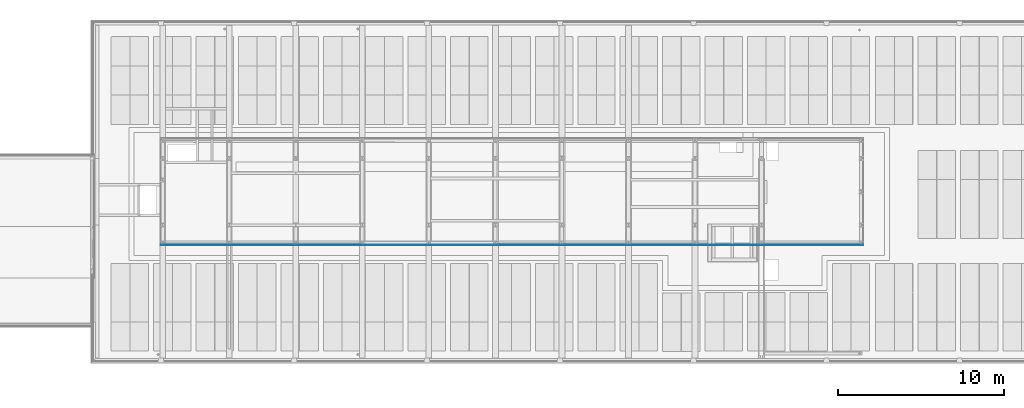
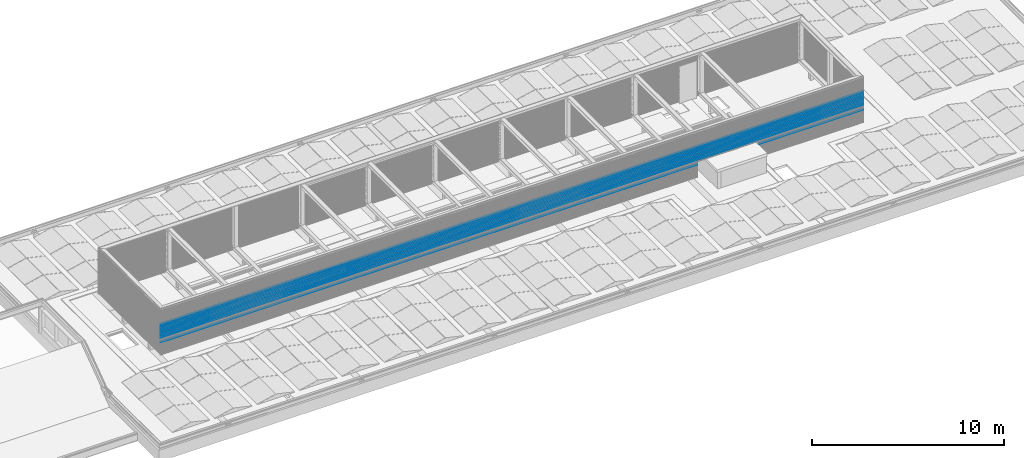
# One storey, part 35 of 63: 13 building element parts, 1 opening, 1 element without a shape of its own.
"""IFC2X3 building model written with IfcOpenShell, lengths in millimetres."""

from ifc_helpers import new_model, entity, si_unit, converted_unit, derived_unit, money_unit, direction, frame, origin_with_axes, place, context, subcontext, project, spatial, faceted_brep, material, type_object, element, aggregate, save


model = new_model("IFC2X3")

# Units and contexts
model_context = context("Model", 3, precision=0.01, world=origin_with_axes(), true_north=direction((0.0, 1.0)))
body_context = subcontext(model_context, "Body", "Model", "MODEL_VIEW")
ifc_project = project(units=[si_unit("LENGTHUNIT", "METRE", prefix="MILLI"), si_unit("AREAUNIT", "SQUARE_METRE"), si_unit("VOLUMEUNIT", "CUBIC_METRE"), converted_unit("PLANEANGLEUNIT", "DEGREE", entity("IfcPlaneAngleMeasure", 0.0174532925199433), si_unit("PLANEANGLEUNIT", "RADIAN"), dimensions=[0, 0, 0, 0, 0, 0, 0]), money_unit("EUR"), converted_unit("TIMEUNIT", "Year", entity("IfcTimeMeasure", 31557600.0), si_unit("TIMEUNIT", "SECOND"), dimensions=[0, 0, 1, 0, 0, 0, 0]), si_unit("MASSUNIT", "GRAM", prefix="KILO"), si_unit("THERMODYNAMICTEMPERATUREUNIT", "DEGREE_CELSIUS"), si_unit("LUMINOUSINTENSITYUNIT", "LUMEN"), si_unit("ENERGYUNIT", "JOULE", prefix="MEGA"), derived_unit("THERMALCONDUCTANCEUNIT", [(si_unit("POWERUNIT", "WATT"), 1), (si_unit("LENGTHUNIT", "METRE"), -1), (si_unit("THERMODYNAMICTEMPERATUREUNIT", "KELVIN"), -1)]), derived_unit("SPECIFICHEATCAPACITYUNIT", [(si_unit("ENERGYUNIT", "JOULE"), 1), (si_unit("MASSUNIT", "GRAM", prefix="KILO"), -1), (si_unit("THERMODYNAMICTEMPERATUREUNIT", "KELVIN"), -1)]), derived_unit("MASSDENSITYUNIT", [(si_unit("MASSUNIT", "GRAM", prefix="KILO"), 1), (si_unit("VOLUMEUNIT", "CUBIC_METRE"), -1)])], contexts=[model_context])

# Site, building, storey
site_placement = place(None, origin_with_axes())
site = spatial("IfcSite", under=ifc_project, at=site_placement, Name="<site naam>", CompositionType="ELEMENT")
building_placement = place(site_placement, origin_with_axes())
building = spatial("IfcBuilding", under=site, at=building_placement, Name="<Naam gebouw>", CompositionType="ELEMENT")
storey_placement = place(building_placement, frame((0.0, 0.0, 12770.0), z_axis=(0.0, 0.0, 1.0), x_axis=(1.0, 0.0, 0.0)))
storey = spatial("IfcBuildingStorey", under=building, at=storey_placement, Name="04 4e verdieping", CompositionType="ELEMENT", Elevation=12770.0)

# Wall, opening, building element parts
wall_type = type_object("IfcWallType", Name="Gevelbeplating golf 18 x 2900", PredefinedType="NOTDEFINED")
wall_placement = place(storey_placement, frame((15871.99992141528, 6781.999921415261, 299.9552842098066), z_axis=(0.0, 0.0, 1.0), x_axis=(1.0, 0.0, 0.0)))
wall = element("IfcWall", 1, at=wall_placement, inside=storey, type_object=wall_type, Name="47_Binnenwand_Gevelbeplating")
opening_placement = place(wall_placement, frame((-15871.99992141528, -6781.999921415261, -13069.95528420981), z_axis=(0.0, 0.0, 1.0), x_axis=(1.0, 0.0, 0.0)))
element("IfcOpeningElement", 2, at=opening_placement, cuts=wall, Name="47_Opening_", context=body_context, shape_type="Brep", body=[
    faceted_brep([(48150.00001112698, 6763.99976424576, 12770.0), (48150.00001112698, 6763.99976424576, 14059.65145375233), (48150.00001112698, 6818.000000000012, 14059.65145375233), (48150.00001112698, 6818.000000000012, 12770.0), (51850.00001112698, 6763.99976424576, 12770.0), (51850.00001112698, 6763.99976424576, 14059.65145375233), (51850.00001112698, 6818.000000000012, 14059.65145375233), (51850.00001112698, 6818.000000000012, 12770.0)], [[[0, 1, 2, 3]], [[0, 4, 5, 1]], [[1, 5, 6, 2]], [[3, 2, 6, 7]], [[4, 0, 3, 7]], [[5, 4, 7, 6]]]),
])
ifc_material = material(Name="gevelafwerking type 3 - Aluminium RAL1036")
building_element_part_1_placement = place(wall_placement, origin_with_axes())
building_element_part_1 = element("IfcBuildingElementPart", 3, at=building_element_part_1_placement, material=ifc_material, Name="gevelafwerking type 3 - Aluminium RAL1036", context=body_context, shape_type="Brep", body=[
    faceted_brep([(42241.45599067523, 15.62923191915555, 1205.3155113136), (14.54416649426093, 15.62923191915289, 1205.3155113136), (14.77512824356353, 15.69996890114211, 1205.634310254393), (16.99992737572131, 17.99996904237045, 1215.999997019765), (42239.00022979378, 17.99996904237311, 1215.999997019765), (42241.22502892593, 15.69996890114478, 1205.634310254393), (8.209504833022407, 9.04155271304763, 1196.575878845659), (8.555206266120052, 9.398091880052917, 1197.048886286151), (42247.44495090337, 9.398091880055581, 1197.048886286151), (42247.79065233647, 9.041552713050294, 1196.575878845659), (14.77512824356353, 14.77516613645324, 1205.634310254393), (8.555206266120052, 8.55522165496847, 1197.048886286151), (16.99992737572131, 16.99996666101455, 1215.999997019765), (42239.00022979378, 16.99996666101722, 1215.999997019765), (42241.22502892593, 14.77516613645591, 1205.634310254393), (42247.44495090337, 8.555221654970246, 1197.048886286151), (2.257327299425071, 3.340093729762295, 1188.43178688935), (2.257327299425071, 2.257327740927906, 1188.43178688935), (42253.74282987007, 2.25732774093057, 1188.43178688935), (42253.74282987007, 3.340093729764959, 1188.43178688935), (2.188197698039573, 3.116447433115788, 1188.112325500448), (42253.81195947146, 3.116447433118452, 1188.112325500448), (-5.474286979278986e-05, 0.999969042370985, 1177.999983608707), (-5.474286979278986e-05, -3.095762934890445e-05, 1177.999983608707), (42256.00021191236, -3.095762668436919e-05, 1177.999983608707), (42256.00021191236, 0.9999690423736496, 1177.999983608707)], [[[0, 1, 2, 3, 4, 5]], [[6, 7, 1, 0, 8, 9]], [[10, 2, 1, 7, 11]], [[12, 3, 2, 10]], [[4, 3, 12, 13]], [[14, 5, 4, 13]], [[15, 8, 0, 5, 14]], [[11, 7, 6, 16, 17]], [[18, 19, 9, 8, 15]], [[20, 16, 6, 9, 19, 21]], [[14, 10, 11, 15]], [[13, 12, 10, 14]], [[17, 16, 20, 22, 23]], [[15, 11, 17, 18]], [[24, 25, 21, 19, 18]], [[25, 22, 20, 21]], [[24, 23, 22, 25]], [[18, 17, 23, 24]]]),
])
building_element_part_2_placement = place(wall_placement, origin_with_axes())
building_element_part_2 = element("IfcBuildingElementPart", 4, at=building_element_part_2_placement, material=ifc_material, Name="gevelafwerking type 3 - Aluminium RAL1036", context=body_context, shape_type="Brep", body=[
    faceted_brep([(42241.45594582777, 15.62924144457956, 825.3155113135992), (14.5442113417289, 15.62924144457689, 825.3155113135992), (14.77517145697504, 15.69997743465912, 825.6343057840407), (16.99997058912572, 17.99997856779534, 835.9999925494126), (42239.00018658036, 17.999978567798, 835.9999925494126), (42241.22498571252, 15.69997743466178, 825.6343057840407), (8.209508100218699, 9.041562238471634, 816.5758788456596), (8.555206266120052, 9.398098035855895, 817.048881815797), (42247.44495090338, 9.39809803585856, 817.048881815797), (42247.79064906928, 9.041562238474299, 816.5758788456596), (14.77517145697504, 14.77517566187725, 825.6343057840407), (8.555206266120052, 8.555231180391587, 817.048881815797), (16.99997058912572, 16.99997618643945, 835.9999925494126), (42239.00018658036, 16.99997618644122, 835.9999925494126), (42241.22498571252, 14.77517566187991, 825.6343057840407), (42247.44495090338, 8.555231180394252, 817.048881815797), (2.257327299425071, 3.340100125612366, 808.4317824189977), (2.257327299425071, 2.257337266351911, 808.4317824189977), (42253.74282987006, 2.257337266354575, 808.4317824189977), (42253.74282987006, 3.340100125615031, 808.4317824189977), (2.188198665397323, 3.116456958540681, 808.1123255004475), (42253.81195850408, 3.116456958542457, 808.1123255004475), (-5.474286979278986e-05, 0.9999785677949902, 797.9999791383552), (-5.474286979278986e-05, -2.143220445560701e-05, 797.9999791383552), (42256.00021191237, -2.143220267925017e-05, 797.9999791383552), (42256.00021191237, 0.9999785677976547, 797.9999791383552)], [[[0, 1, 2, 3, 4, 5]], [[6, 7, 1, 0, 8, 9]], [[10, 2, 1, 7, 11]], [[12, 3, 2, 10]], [[4, 3, 12, 13]], [[14, 5, 4, 13]], [[15, 8, 0, 5, 14]], [[11, 7, 6, 16, 17]], [[18, 19, 9, 8, 15]], [[20, 16, 6, 9, 19, 21]], [[14, 10, 11, 15]], [[13, 12, 10, 14]], [[17, 16, 20, 22, 23]], [[15, 11, 17, 18]], [[24, 25, 21, 19, 18]], [[25, 22, 20, 21]], [[24, 23, 22, 25]], [[18, 17, 23, 24]]]),
])
building_element_part_3_placement = place(wall_placement, origin_with_axes())
building_element_part_3 = element("IfcBuildingElementPart", 5, at=building_element_part_3_placement, material=ifc_material, Name="gevelafwerking type 3 - Aluminium RAL1036", context=body_context, shape_type="Brep", body=[
    faceted_brep([(42241.45600255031, 15.62923191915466, 1129.315511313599), (14.54415461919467, 15.62923191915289, 1129.315511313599), (14.77512824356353, 15.6999725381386, 1129.634326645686), (16.99992737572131, 17.99996904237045, 1140.000013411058), (42239.00022979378, 17.99996904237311, 1140.000013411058), (42241.22502892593, 15.69997253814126, 1129.634326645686), (8.20949285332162, 9.04155271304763, 1120.57587884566), (8.555206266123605, 9.398104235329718, 1121.048902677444), (42247.44495090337, 9.398104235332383, 1121.048902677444), (42247.79066431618, 9.041552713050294, 1120.57587884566), (14.77512824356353, 14.77516613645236, 1129.634326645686), (8.555206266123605, 8.555221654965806, 1121.048902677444), (16.99992737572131, 16.99996666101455, 1140.000013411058), (42239.00022979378, 16.99996666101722, 1140.000013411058), (42241.22502892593, 14.77516613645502, 1129.634326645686), (42247.44495090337, 8.55522165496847, 1121.048902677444), (2.257327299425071, 3.340105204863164, 1112.431803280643), (2.257327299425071, 2.257327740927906, 1112.431803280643), (42253.74282987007, 2.25732774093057, 1112.431803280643), (42253.74282987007, 3.340105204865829, 1112.431803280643), (2.188194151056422, 3.116447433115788, 1112.112325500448), (42253.81196301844, 3.116447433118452, 1112.112325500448), (-5.474286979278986e-05, 0.999969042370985, 1102.0), (-5.474286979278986e-05, -3.095762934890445e-05, 1102.0), (42256.00021191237, -3.095762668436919e-05, 1102.0), (42256.00021191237, 0.9999690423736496, 1102.0)], [[[0, 1, 2, 3, 4, 5]], [[6, 7, 1, 0, 8, 9]], [[10, 2, 1, 7, 11]], [[12, 3, 2, 10]], [[4, 3, 12, 13]], [[14, 5, 4, 13]], [[15, 8, 0, 5, 14]], [[11, 7, 6, 16, 17]], [[18, 19, 9, 8, 15]], [[20, 16, 6, 9, 19, 21]], [[14, 10, 11, 15]], [[13, 12, 10, 14]], [[17, 16, 20, 22, 23]], [[15, 11, 17, 18]], [[24, 25, 21, 19, 18]], [[25, 22, 20, 21]], [[24, 23, 22, 25]], [[18, 17, 23, 24]]]),
])
building_element_part_4_placement = place(wall_placement, origin_with_axes())
building_element_part_4 = element("IfcBuildingElementPart", 6, at=building_element_part_4_placement, material=ifc_material, Name="gevelafwerking type 3 - Aluminium RAL1036", context=body_context, shape_type="Brep", body=[
    faceted_brep([(42241.45596849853, 15.62922953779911, 1281.315511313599), (14.54418867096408, 15.62922953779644, 1281.315511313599), (14.77513419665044, 15.69996288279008, 1281.6342938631), (16.99992737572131, 17.99996666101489, 1291.999980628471), (42239.00022979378, 17.99996666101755, 1291.999980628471), (42241.22502297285, 15.69996288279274, 1281.6342938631), (8.209486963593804, 9.041550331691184, 1272.575878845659), (8.555206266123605, 9.39810971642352, 1273.048913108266), (42247.44495090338, 9.398109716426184, 1273.048913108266), (42247.79067020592, 9.041550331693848, 1272.575878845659), (14.77513419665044, 14.7751637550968, 1281.6342938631), (8.555206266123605, 8.555219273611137, 1273.048913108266), (16.99992737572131, 16.99996427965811, 1291.999980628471), (42239.00022979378, 16.99996427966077, 1291.999980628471), (42241.22502297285, 14.77516375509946, 1281.6342938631), (42247.44495090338, 8.555219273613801, 1273.048913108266), (2.257327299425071, 3.340079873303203, 1264.431770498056), (2.257327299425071, 2.25732535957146, 1264.431770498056), (42253.74282987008, 2.257325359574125, 1264.431770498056), (42253.74282987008, 3.340079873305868, 1264.431770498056), (2.188196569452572, 3.116445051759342, 1264.112325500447), (42253.81195592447, 3.116445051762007, 1264.112325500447), (-5.006730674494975e-05, 0.9999666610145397, 1254.000010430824), (-5.006730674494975e-05, -3.333898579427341e-05, 1254.000010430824), (42256.0002072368, -3.333898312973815e-05, 1254.000010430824), (42256.0002072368, 0.9999666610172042, 1254.000010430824)], [[[0, 1, 2, 3, 4, 5]], [[6, 7, 1, 0, 8, 9]], [[10, 2, 1, 7, 11]], [[12, 3, 2, 10]], [[4, 3, 12, 13]], [[14, 5, 4, 13]], [[15, 8, 0, 5, 14]], [[11, 7, 6, 16, 17]], [[18, 19, 9, 8, 15]], [[20, 16, 6, 9, 19, 21]], [[14, 10, 11, 15]], [[13, 12, 10, 14]], [[17, 16, 20, 22, 23]], [[15, 11, 17, 18]], [[24, 25, 21, 19, 18]], [[25, 22, 20, 21]], [[24, 23, 22, 25]], [[18, 17, 23, 24]]]),
])
building_element_part_5_placement = place(wall_placement, origin_with_axes())
building_element_part_5 = element("IfcBuildingElementPart", 7, at=building_element_part_5_placement, material=ifc_material, Name="gevelafwerking type 3 - Aluminium RAL1036", context=body_context, shape_type="Brep", body=[
    faceted_brep([(42241.45598635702, 15.6292247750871, 1433.3155113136), (14.54417081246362, 15.62922477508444, 1433.3155113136), (14.77512824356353, 15.69996043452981, 1433.634304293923), (16.99992737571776, 17.99996189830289, 1443.999991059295), (42239.00022979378, 17.99996189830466, 1443.999991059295), (42241.22502892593, 15.69996043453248, 1433.634304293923), (8.209506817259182, 9.041545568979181, 1424.575878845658), (8.5552062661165, 9.398080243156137, 1425.048880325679), (42247.44495090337, 9.398080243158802, 1425.048880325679), (42247.79065035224, 9.041545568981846, 1424.575878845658), (14.77512824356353, 14.7751589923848, 1433.634304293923), (8.5552062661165, 8.555214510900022, 1425.048880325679), (16.99992737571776, 16.99995951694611, 1443.999991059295), (42239.00022979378, 16.99995951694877, 1443.999991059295), (42241.22502892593, 14.77515899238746, 1433.634304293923), (42247.44495090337, 8.555214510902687, 1425.048880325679), (2.257284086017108, 3.34008241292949, 1416.43178092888), (2.257284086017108, 2.257320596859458, 1416.43178092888), (42253.74287308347, 2.257320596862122, 1416.43178092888), (42253.74287308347, 3.340082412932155, 1416.43178092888), (2.188156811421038, 3.11644028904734, 1416.112325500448), (42253.81200035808, 3.116440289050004, 1416.112325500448), (-5.474286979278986e-05, 0.9999618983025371, 1406.000020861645), (-5.474286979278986e-05, -3.810169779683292e-05, 1406.000020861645), (42256.00021191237, -3.810169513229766e-05, 1406.000020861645), (42256.00021191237, 0.9999618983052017, 1406.000020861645)], [[[0, 1, 2, 3, 4, 5]], [[6, 7, 1, 0, 8, 9]], [[10, 2, 1, 7, 11]], [[12, 3, 2, 10]], [[4, 3, 12, 13]], [[14, 5, 4, 13]], [[15, 8, 0, 5, 14]], [[11, 7, 6, 16, 17]], [[18, 19, 9, 8, 15]], [[20, 16, 6, 9, 19, 21]], [[14, 10, 11, 15]], [[13, 12, 10, 14]], [[17, 16, 20, 22, 23]], [[15, 11, 17, 18]], [[24, 25, 21, 19, 18]], [[25, 22, 20, 21]], [[24, 23, 22, 25]], [[18, 17, 23, 24]]]),
])
building_element_part_6_placement = place(wall_placement, origin_with_axes())
building_element_part_6 = element("IfcBuildingElementPart", 8, at=building_element_part_6_placement, material=ifc_material, Name="gevelafwerking type 3 - Aluminium RAL1036", context=body_context, shape_type="Brep", body=[
    faceted_brep([(42241.45600578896, 15.62922239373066, 1509.315511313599), (14.54415138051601, 15.62922239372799, 1509.315511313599), (14.77512824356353, 15.69996400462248, 1509.634331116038), (16.99992737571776, 17.99995951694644, 1520.00001788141), (42239.00022979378, 17.9999595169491, 1520.00001788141), (42241.22502892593, 15.69996400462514, 1509.634331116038), (8.209491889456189, 9.041543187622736, 1500.575878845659), (8.5552062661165, 9.398098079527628, 1501.048907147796), (42247.44495090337, 9.398098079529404, 1501.048907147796), (42247.79066528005, 9.0415431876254, 1500.575878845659), (14.77512824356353, 14.77515661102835, 1509.634331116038), (8.5552062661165, 8.555212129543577, 1501.048907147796), (16.99992737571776, 16.99995713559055, 1520.00001788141), (42239.00022979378, 16.99995713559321, 1520.00001788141), (42241.22502892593, 14.77515661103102, 1509.634331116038), (42247.44495090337, 8.555212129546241, 1501.048907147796), (2.257288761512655, 3.340098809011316, 1492.431807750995), (2.257288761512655, 2.257318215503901, 1492.431807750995), (42253.74286840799, 2.257318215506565, 1492.431807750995), (42253.74286840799, 3.34009880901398, 1492.431807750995), (2.188160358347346, 3.116437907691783, 1492.112325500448), (42253.81200148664, 3.116437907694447, 1492.112325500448), (-5.474287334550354e-05, 0.9999595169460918, 1482.000004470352), (-5.474287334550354e-05, -4.048305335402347e-05, 1482.000004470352), (42256.00021191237, -4.048305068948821e-05, 1482.000004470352), (42256.00021191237, 0.9999595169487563, 1482.000004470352)], [[[0, 1, 2, 3, 4, 5]], [[6, 7, 1, 0, 8, 9]], [[10, 2, 1, 7, 11]], [[12, 3, 2, 10]], [[4, 3, 12, 13]], [[14, 5, 4, 13]], [[15, 8, 0, 5, 14]], [[11, 7, 6, 16, 17]], [[18, 19, 9, 8, 15]], [[20, 16, 6, 9, 19, 21]], [[14, 10, 11, 15]], [[13, 12, 10, 14]], [[17, 16, 20, 22, 23]], [[15, 11, 17, 18]], [[24, 25, 21, 19, 18]], [[25, 22, 20, 21]], [[24, 23, 22, 25]], [[18, 17, 23, 24]]]),
])
building_element_part_7_placement = place(wall_placement, origin_with_axes())
building_element_part_7 = element("IfcBuildingElementPart", 9, at=building_element_part_7_placement, material=ifc_material, Name="gevelafwerking type 3 - Aluminium RAL1036", context=body_context, shape_type="Brep", body=[
    faceted_brep([(42241.45599391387, 15.6292200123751, 1585.315511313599), (14.54416325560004, 15.62922001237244, 1585.315511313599), (14.77512824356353, 15.69995798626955, 1585.634314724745), (16.99992737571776, 17.99995713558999, 1596.000001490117), (42239.00022979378, 17.99995713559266, 1596.000001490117), (42241.22502892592, 15.69995798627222, 1585.634314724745), (8.209503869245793, 9.041540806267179, 1576.575878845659), (8.555206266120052, 9.398083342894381, 1577.048890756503), (42247.44495090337, 9.398083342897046, 1577.048890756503), (42247.79065330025, 9.041540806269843, 1576.575878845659), (14.77512824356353, 14.77515422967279, 1585.634314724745), (8.555206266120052, 8.555209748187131, 1577.048890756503), (16.99992737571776, 16.9999547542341, 1596.000001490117), (42239.00022979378, 16.99995475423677, 1596.000001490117), (42241.22502892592, 14.77515422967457, 1585.634314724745), (42247.44495090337, 8.555209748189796, 1577.048890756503), (2.257288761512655, 3.340084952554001, 1568.431791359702), (2.257288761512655, 2.257315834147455, 1568.431791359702), (42253.74286840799, 2.25731583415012, 1568.431791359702), (42253.74286840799, 3.340084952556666, 1568.431791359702), (2.188168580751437, 3.116435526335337, 1568.112325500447), (42253.81199793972, 3.116435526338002, 1568.112325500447), (-5.006739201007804e-05, 0.9999571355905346, 1557.999988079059), (-5.006739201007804e-05, -4.286440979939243e-05, 1557.999988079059), (42256.00020723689, -4.286440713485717e-05, 1557.999988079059), (42256.00020723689, 0.9999571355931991, 1557.999988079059)], [[[0, 1, 2, 3, 4, 5]], [[6, 7, 1, 0, 8, 9]], [[10, 2, 1, 7, 11]], [[12, 3, 2, 10]], [[4, 3, 12, 13]], [[14, 5, 4, 13]], [[15, 8, 0, 5, 14]], [[11, 7, 6, 16, 17]], [[18, 19, 9, 8, 15]], [[20, 16, 6, 9, 19, 21]], [[14, 10, 11, 15]], [[13, 12, 10, 14]], [[17, 16, 20, 22, 23]], [[15, 11, 17, 18]], [[24, 25, 21, 19, 18]], [[25, 22, 20, 21]], [[24, 23, 22, 25]], [[18, 17, 23, 24]]]),
])
building_element_part_8_placement = place(wall_placement, origin_with_axes())
building_element_part_8 = element("IfcBuildingElementPart", 10, at=building_element_part_8_placement, material=ifc_material, Name="gevelafwerking type 3 - Aluminium RAL1036", context=body_context, shape_type="Brep", body=[
    faceted_brep([(42241.45598203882, 15.62921763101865, 1661.315511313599), (14.54417513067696, 15.62921763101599, 1661.315511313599), (14.77512824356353, 15.6999519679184, 1661.634298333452), (16.99992737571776, 17.99995475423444, 1671.999985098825), (42239.00022979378, 17.9999547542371, 1671.999985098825), (42241.22502892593, 15.69995196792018, 1661.634298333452), (8.209511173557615, 9.041538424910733, 1652.57587884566), (8.5552062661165, 9.398068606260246, 1653.04887436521), (42247.44495090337, 9.39806860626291, 1653.04887436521), (42247.79064599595, 9.041538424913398, 1652.57587884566), (14.77512824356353, 14.77515184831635, 1661.634298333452), (8.5552062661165, 8.555207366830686, 1653.04887436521), (16.99992737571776, 16.99995237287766, 1671.999985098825), (42239.00022979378, 16.99995237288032, 1671.999985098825), (42241.22502892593, 14.77515184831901, 1661.634298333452), (42247.44495090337, 8.55520736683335, 1653.04887436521), (2.257284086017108, 3.34007109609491, 1644.431774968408), (2.257284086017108, 2.25731345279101, 1644.431774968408), (42253.74287308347, 2.257313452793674, 1644.431774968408), (42253.74287308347, 3.340071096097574, 1644.431774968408), (2.188158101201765, 3.116433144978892, 1644.112325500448), (42253.81199906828, 3.116433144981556, 1644.112325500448), (-5.474286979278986e-05, 0.9999547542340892, 1634.000014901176), (-5.474286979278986e-05, -4.52457662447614e-05, 1634.000014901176), (42256.00021191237, -4.524576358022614e-05, 1634.000014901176), (42256.00021191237, 0.9999547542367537, 1634.000014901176)], [[[0, 1, 2, 3, 4, 5]], [[6, 7, 1, 0, 8, 9]], [[10, 2, 1, 7, 11]], [[12, 3, 2, 10]], [[4, 3, 12, 13]], [[14, 5, 4, 13]], [[15, 8, 0, 5, 14]], [[11, 7, 6, 16, 17]], [[18, 19, 9, 8, 15]], [[20, 16, 6, 9, 19, 21]], [[14, 10, 11, 15]], [[13, 12, 10, 14]], [[17, 16, 20, 22, 23]], [[15, 11, 17, 18]], [[24, 25, 21, 19, 18]], [[25, 22, 20, 21]], [[24, 23, 22, 25]], [[18, 17, 23, 24]]]),
])
building_element_part_9_placement = place(wall_placement, origin_with_axes())
building_element_part_9 = element("IfcBuildingElementPart", 11, at=building_element_part_9_placement, material=ifc_material, Name="gevelafwerking type 3 - Aluminium RAL1036", context=body_context, shape_type="Brep", body=[
    faceted_brep([(42241.45600147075, 15.62921524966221, 1737.315511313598), (14.54415569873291, 15.62921524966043, 1737.315511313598), (14.77512824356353, 15.69995553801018, 1737.634325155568), (16.99992737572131, 17.99995237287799, 1748.00001192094), (42239.00022979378, 17.99995237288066, 1748.00001192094), (42241.22502892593, 15.69995553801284, 1737.634325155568), (8.209496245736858, 9.041536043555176, 1728.575878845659), (8.555206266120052, 9.398086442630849, 1729.048901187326), (42247.44495090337, 9.398086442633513, 1729.048901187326), (42247.79066092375, 9.04153604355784, 1728.575878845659), (14.77512824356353, 14.77514946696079, 1737.634325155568), (8.555206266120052, 8.555204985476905, 1729.048901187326), (16.99992737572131, 16.9999499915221, 1748.00001192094), (42239.00022979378, 16.99994999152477, 1748.00001192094), (42241.22502892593, 14.77514946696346, 1737.634325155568), (42247.44495090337, 8.555204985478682, 1729.048901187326), (2.257288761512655, 3.340087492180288, 1720.431801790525), (2.257288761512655, 2.257311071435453, 1720.431801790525), (42253.74286840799, 2.257311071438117, 1720.431801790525), (42253.74286840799, 3.340087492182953, 1720.431801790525), (2.188161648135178, 3.116430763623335, 1720.112325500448), (42253.81200019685, 3.116430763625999, 1720.112325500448), (-5.474287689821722e-05, 0.9999523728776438, 1709.999998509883), (-5.474287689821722e-05, -4.762712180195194e-05, 1709.999998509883), (42256.00021191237, -4.762711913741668e-05, 1709.999998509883), (42256.00021191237, 0.9999523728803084, 1709.999998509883)], [[[0, 1, 2, 3, 4, 5]], [[6, 7, 1, 0, 8, 9]], [[10, 2, 1, 7, 11]], [[12, 3, 2, 10]], [[4, 3, 12, 13]], [[14, 5, 4, 13]], [[15, 8, 0, 5, 14]], [[11, 7, 6, 16, 17]], [[18, 19, 9, 8, 15]], [[20, 16, 6, 9, 19, 21]], [[14, 10, 11, 15]], [[13, 12, 10, 14]], [[17, 16, 20, 22, 23]], [[15, 11, 17, 18]], [[24, 25, 21, 19, 18]], [[25, 22, 20, 21]], [[24, 23, 22, 25]], [[18, 17, 23, 24]]]),
])
building_element_part_10_placement = place(wall_placement, origin_with_axes())
building_element_part_10 = element("IfcBuildingElementPart", 12, at=building_element_part_10_placement, material=ifc_material, Name="gevelafwerking type 3 - Aluminium RAL1036", context=body_context, shape_type="Brep", body=[
    faceted_brep([(42241.4559912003, 15.62921286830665, 1813.315511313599), (14.54416596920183, 15.62921286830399, 1813.315511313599), (14.77512824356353, 15.69994951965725, 1813.634308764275), (16.99992737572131, 17.99994999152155, 1823.999995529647), (42239.00022979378, 17.99994999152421, 1823.999995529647), (42241.22502892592, 15.69994951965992, 1813.634308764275), (8.20946738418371, 9.04153366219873, 1804.575878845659), (8.55516305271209, 9.39807170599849, 1805.048884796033), (42247.44499411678, 9.398071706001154, 1805.048884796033), (42247.79068978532, 9.041533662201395, 1804.575878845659), (14.77512824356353, 14.77514708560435, 1813.634308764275), (8.55516305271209, 8.555202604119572, 1805.048884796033), (16.99992737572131, 16.99994761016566, 1823.999995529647), (42239.00022979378, 16.99994761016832, 1823.999995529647), (42241.22502892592, 14.77514708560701, 1813.634308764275), (42247.44499411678, 8.555202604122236, 1805.048884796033), (2.257288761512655, 3.340073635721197, 1796.431785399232), (2.257288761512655, 2.257308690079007, 1796.431785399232), (42253.74286840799, 2.257308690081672, 1796.431785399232), (42253.74286840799, 3.340073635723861, 1796.431785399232), (2.188169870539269, 3.116428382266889, 1796.112325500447), (42253.81199664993, 3.116428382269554, 1796.112325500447), (-5.006739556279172e-05, 0.9999499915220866, 1785.99998211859), (-5.006739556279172e-05, -5.000847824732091e-05, 1785.99998211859), (42256.00020723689, -5.000847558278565e-05, 1785.99998211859), (42256.00020723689, 0.9999499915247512, 1785.99998211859)], [[[0, 1, 2, 3, 4, 5]], [[6, 7, 1, 0, 8, 9]], [[10, 2, 1, 7, 11]], [[12, 3, 2, 10]], [[4, 3, 12, 13]], [[14, 5, 4, 13]], [[15, 8, 0, 5, 14]], [[11, 7, 6, 16, 17]], [[18, 19, 9, 8, 15]], [[20, 16, 6, 9, 19, 21]], [[14, 10, 11, 15]], [[13, 12, 10, 14]], [[17, 16, 20, 22, 23]], [[15, 11, 17, 18]], [[24, 25, 21, 19, 18]], [[25, 22, 20, 21]], [[24, 23, 22, 25]], [[18, 17, 23, 24]]]),
])
building_element_part_11_placement = place(wall_placement, origin_with_axes())
building_element_part_11 = element("IfcBuildingElementPart", 13, at=building_element_part_11_placement, material=ifc_material, Name="gevelafwerking type 3 - Aluminium RAL1036", context=body_context, shape_type="Brep", body=[
    faceted_brep([(42241.4559982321, 15.62922715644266, 1357.315511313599), (14.54415893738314, 15.62922715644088, 1357.315511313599), (14.77512824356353, 15.69996645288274, 1357.634320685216), (16.99992737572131, 17.99996427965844, 1368.000007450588), (42239.00022979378, 17.99996427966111, 1368.000007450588), (42241.22502892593, 15.69996645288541, 1357.634320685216), (8.209499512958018, 9.041547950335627, 1348.57587884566), (8.5552062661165, 9.398094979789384, 1349.048896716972), (42247.44495090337, 9.398094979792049, 1349.048896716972), (42247.79065765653, 9.041547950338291, 1348.57587884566), (14.77512824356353, 14.77516137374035, 1357.634320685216), (8.5552062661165, 8.55521689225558, 1349.048896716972), (16.99992737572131, 16.99996189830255, 1368.000007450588), (42239.00022979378, 16.99996189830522, 1368.000007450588), (42241.22502892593, 14.77516137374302, 1357.634320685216), (42247.44495090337, 8.555216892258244, 1349.048896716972), (2.257288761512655, 3.340096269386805, 1340.431797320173), (2.257288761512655, 2.257322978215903, 1340.431797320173), (42253.74286840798, 2.257322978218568, 1340.431797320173), (42253.74286840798, 3.34009626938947, 1340.431797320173), (2.188162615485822, 3.116442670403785, 1340.112325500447), (42253.8119992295, 3.11644267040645, 1340.112325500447), (-5.474287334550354e-05, 0.9999642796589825, 1329.999994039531), (-5.474287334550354e-05, -3.572034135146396e-05, 1329.999994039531), (42256.00021191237, -3.57203386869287e-05, 1329.999994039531), (42256.00021191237, 0.9999642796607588, 1329.999994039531)], [[[0, 1, 2, 3, 4, 5]], [[6, 7, 1, 0, 8, 9]], [[10, 2, 1, 7, 11]], [[12, 3, 2, 10]], [[4, 3, 12, 13]], [[14, 5, 4, 13]], [[15, 8, 0, 5, 14]], [[11, 7, 6, 16, 17]], [[18, 19, 9, 8, 15]], [[20, 16, 6, 9, 19, 21]], [[14, 10, 11, 15]], [[13, 12, 10, 14]], [[17, 16, 20, 22, 23]], [[15, 11, 17, 18]], [[24, 25, 21, 19, 18]], [[25, 22, 20, 21]], [[24, 23, 22, 25]], [[18, 17, 23, 24]]]),
])
building_element_part_12_placement = place(wall_placement, origin_with_axes())
building_element_part_12 = element("IfcBuildingElementPart", 14, at=building_element_part_12_placement, material=ifc_material, Name="gevelafwerking type 3 - Aluminium RAL1036", context=body_context, shape_type="Brep", body=[
    faceted_brep([(42241.45601063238, 15.62921048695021, 1889.315511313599), (14.54414653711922, 15.62921048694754, 1889.315511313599), (14.77513288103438, 15.69995308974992, 1889.634335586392), (16.99992737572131, 17.99994761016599, 1899.999979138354), (42239.00022979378, 17.99994761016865, 1899.999979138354), (42241.22502428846, 15.69995308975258, 1889.634335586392), (8.20944483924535, 9.041531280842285, 1880.57587884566), (8.555163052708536, 9.398089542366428, 1881.048911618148), (42247.44499411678, 9.398089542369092, 1881.048911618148), (42247.79071233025, 9.04153128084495, 1880.57587884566), (14.77513288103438, 14.7751447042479, 1889.634335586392), (8.555163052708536, 8.55520022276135, 1881.048911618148), (16.99992737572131, 16.9999452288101, 1899.999979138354), (42239.00022979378, 16.99994522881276, 1899.999979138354), (42241.22502428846, 14.77514470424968, 1889.634335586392), (42247.44499411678, 8.555200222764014, 1881.048911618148), (2.257284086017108, 3.340059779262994, 1872.431769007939), (2.257284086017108, 2.257306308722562, 1872.431769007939), (42253.74287308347, 2.257306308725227, 1872.431769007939), (42253.74287308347, 3.340059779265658, 1872.431769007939), (2.188159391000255, 3.116426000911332, 1872.112325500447), (42253.81199777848, 3.116426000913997, 1872.112325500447), (-5.474286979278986e-05, 0.9999476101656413, 1862.000008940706), (-5.474286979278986e-05, -5.238983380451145e-05, 1862.000008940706), (42256.00021191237, -5.23898311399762e-05, 1862.000008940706), (42256.00021191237, 0.9999476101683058, 1862.000008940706)], [[[0, 1, 2, 3, 4, 5]], [[6, 7, 1, 0, 8, 9]], [[10, 2, 1, 7, 11]], [[12, 3, 2, 10]], [[4, 3, 12, 13]], [[14, 5, 4, 13]], [[15, 8, 0, 5, 14]], [[11, 7, 6, 16, 17]], [[18, 19, 9, 8, 15]], [[20, 16, 6, 9, 19, 21]], [[14, 10, 11, 15]], [[13, 12, 10, 14]], [[17, 16, 20, 22, 23]], [[15, 11, 17, 18]], [[24, 25, 21, 19, 18]], [[25, 22, 20, 21]], [[24, 23, 22, 25]], [[18, 17, 23, 24]]]),
])
building_element_part_13_placement = place(wall_placement, origin_with_axes())
building_element_part_13 = element("IfcBuildingElementPart", 15, at=building_element_part_13_placement, material=ifc_material, Name="gevelafwerking type 3 - Aluminium RAL1036", context=body_context, shape_type="Brep", body=[
    faceted_brep([(42241.45599875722, 15.62921048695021, 1965.3155113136), (14.54415841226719, 15.62921048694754, 1965.3155113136), (14.77512824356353, 15.69994945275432, 1965.634319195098), (16.99992737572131, 17.99994761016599, 1976.00000596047), (42239.00022979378, 17.99994761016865, 1976.00000596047), (42241.22502892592, 15.69994945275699, 1965.634319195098), (8.209459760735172, 9.041531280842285, 1956.575878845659), (8.55516305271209, 9.398077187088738, 1957.048895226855), (42247.44499411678, 9.398077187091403, 1957.048895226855), (42247.79069740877, 9.04153128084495, 1956.575878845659), (14.77512824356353, 14.7751447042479, 1965.634319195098), (8.55516305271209, 8.555200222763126, 1957.048895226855), (16.99992737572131, 16.9999452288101, 1976.00000596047), (42239.00022979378, 16.99994522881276, 1976.00000596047), (42241.22502892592, 14.77514470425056, 1965.634319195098), (42247.44499411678, 8.55520022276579, 1957.048895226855), (2.257288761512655, 3.340078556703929, 1948.431795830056), (2.257288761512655, 2.25730630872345, 1948.431795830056), (42253.74286840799, 2.257306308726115, 1948.431795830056), (42253.74286840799, 3.340078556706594, 1948.431795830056), (2.188162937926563, 3.116426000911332, 1948.112325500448), (42253.81199890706, 3.116426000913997, 1948.112325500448), (-5.474287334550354e-05, 0.9999476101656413, 1937.999992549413), (-5.474287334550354e-05, -5.238983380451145e-05, 1937.999992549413), (42256.00021191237, -5.23898311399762e-05, 1937.999992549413), (42256.00021191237, 0.9999476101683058, 1937.999992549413)], [[[0, 1, 2, 3, 4, 5]], [[6, 7, 1, 0, 8, 9]], [[10, 2, 1, 7, 11]], [[12, 3, 2, 10]], [[4, 3, 12, 13]], [[14, 5, 4, 13]], [[15, 8, 0, 5, 14]], [[11, 7, 6, 16, 17]], [[18, 19, 9, 8, 15]], [[20, 16, 6, 9, 19, 21]], [[14, 10, 11, 15]], [[13, 12, 10, 14]], [[17, 16, 20, 22, 23]], [[15, 11, 17, 18]], [[24, 25, 21, 19, 18]], [[25, 22, 20, 21]], [[24, 23, 22, 25]], [[18, 17, 23, 24]]]),
])
aggregate(wall, [building_element_part_1, building_element_part_2, building_element_part_3, building_element_part_4, building_element_part_5, building_element_part_6, building_element_part_7, building_element_part_8, building_element_part_9, building_element_part_10, building_element_part_11, building_element_part_12, building_element_part_13])

save(model, "model.ifc")
